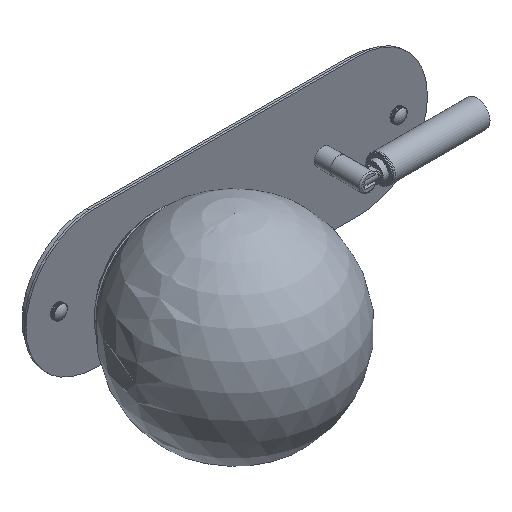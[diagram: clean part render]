
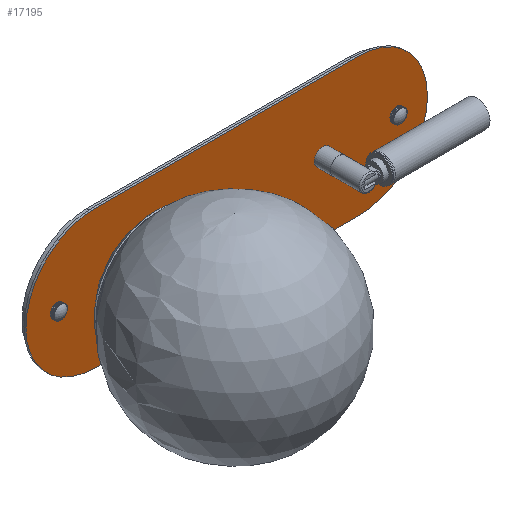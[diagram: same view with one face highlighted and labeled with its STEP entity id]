
A CAD part, isometric view. The second image highlights one B-rep face of the part: STEP entity #17195.
In plain terms, the highlighted planar face has unit normal (0, -1, 0).
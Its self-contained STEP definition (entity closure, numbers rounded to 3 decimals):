
#328=FACE_OUTER_BOUND('',#1369,.T.);
#1369=EDGE_LOOP('',(#10536,#10537,#10538,#10539));
#2418=CIRCLE('',#18396,52.5);
#2419=CIRCLE('',#18397,52.5);
#2724=LINE('',#24422,#4710);
#2725=LINE('',#24426,#4711);
#4710=VECTOR('',#19747,10.);
#4711=VECTOR('',#19750,10.);
#6698=VERTEX_POINT('',#24420);
#6699=VERTEX_POINT('',#24421);
#6700=VERTEX_POINT('',#24423);
#6701=VERTEX_POINT('',#24425);
#8234=EDGE_CURVE('',#6698,#6699,#2724,.T.);
#8235=EDGE_CURVE('',#6699,#6700,#2418,.T.);
#8236=EDGE_CURVE('',#6700,#6701,#2725,.T.);
#8237=EDGE_CURVE('',#6701,#6698,#2419,.T.);
#10536=ORIENTED_EDGE('',*,*,#8234,.T.);
#10537=ORIENTED_EDGE('',*,*,#8235,.T.);
#10538=ORIENTED_EDGE('',*,*,#8236,.T.);
#10539=ORIENTED_EDGE('',*,*,#8237,.T.);
#15137=PLANE('',#18395);
#17195=ADVANCED_FACE('',(#328),#15137,.T.);
#18395=AXIS2_PLACEMENT_3D('',#24419,#19745,#19746);
#18396=AXIS2_PLACEMENT_3D('',#24424,#19748,#19749);
#18397=AXIS2_PLACEMENT_3D('',#24427,#19751,#19752);
#19745=DIRECTION('center_axis',(0.,-1.,0.));
#19746=DIRECTION('ref_axis',(0.,0.,-1.));
#19747=DIRECTION('',(-1.,0.,0.));
#19748=DIRECTION('center_axis',(0.,-1.,0.));
#19749=DIRECTION('ref_axis',(0.,0.,1.));
#19750=DIRECTION('',(1.,0.,0.));
#19751=DIRECTION('center_axis',(0.,-1.,0.));
#19752=DIRECTION('ref_axis',(0.,0.,-1.));
#24419=CARTESIAN_POINT('Origin',(-100.,0.,-52.5));
#24420=CARTESIAN_POINT('',(0.,0.,0.));
#24421=CARTESIAN_POINT('',(-200.,0.,0.));
#24422=CARTESIAN_POINT('',(0.,0.,0.));
#24423=CARTESIAN_POINT('',(-200.,0.,-105.));
#24424=CARTESIAN_POINT('Origin',(-200.,0.,-52.5));
#24425=CARTESIAN_POINT('',(0.,0.,-105.));
#24426=CARTESIAN_POINT('',(-200.,0.,-105.));
#24427=CARTESIAN_POINT('Origin',(0.,0.,-52.5));
